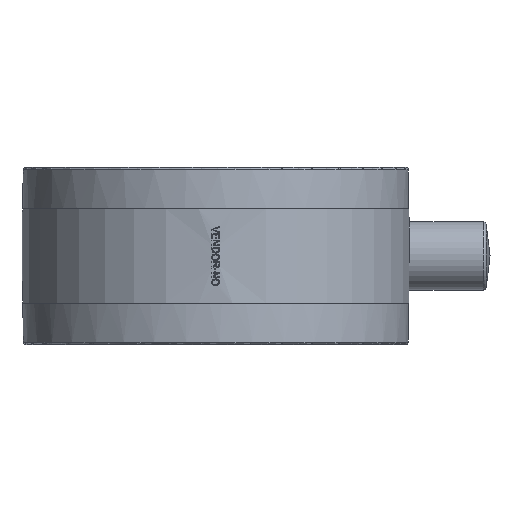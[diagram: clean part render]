
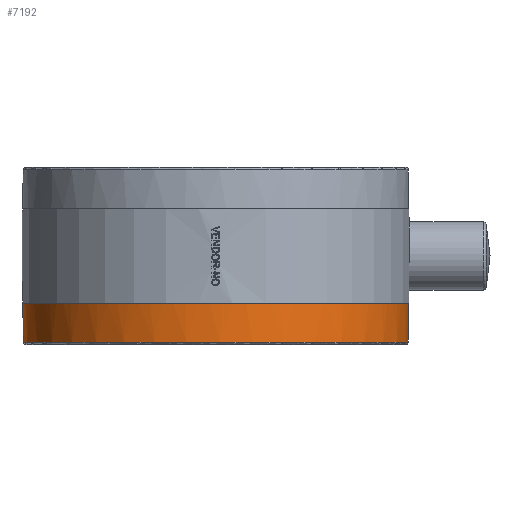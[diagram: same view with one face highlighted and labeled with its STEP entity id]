
A CAD part, front view. The second image highlights one B-rep face of the part: STEP entity #7192.
In plain terms, the highlighted cylindrical face has radius 65 mm (diameter 130 mm), a full revolution.
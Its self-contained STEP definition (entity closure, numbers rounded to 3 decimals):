
#4611=ELLIPSE('',#18800,91.924,65.);
#4612=ELLIPSE('',#18802,91.924,65.);
#4665=LINE('',#25378,#5645);
#4666=LINE('',#25383,#5646);
#5645=VECTOR('',#20491,1.);
#5646=VECTOR('',#20494,1.);
#7192=ADVANCED_FACE('',(#8440,#8441),#8134,.T.);
#8134=CYLINDRICAL_SURFACE('',#18803,65.);
#8440=FACE_BOUND('',#8831,.T.);
#8441=FACE_BOUND('',#8832,.T.);
#8831=EDGE_LOOP('',(#10068));
#8832=EDGE_LOOP('',(#10069,#10070,#10071,#10072,#10073,#10074));
#10068=ORIENTED_EDGE('',*,*,#15964,.T.);
#10069=ORIENTED_EDGE('',*,*,#15965,.F.);
#10070=ORIENTED_EDGE('',*,*,#15966,.T.);
#10071=ORIENTED_EDGE('',*,*,#15967,.F.);
#10072=ORIENTED_EDGE('',*,*,#15968,.T.);
#10073=ORIENTED_EDGE('',*,*,#15969,.F.);
#10074=ORIENTED_EDGE('',*,*,#15970,.T.);
#14484=VERTEX_POINT('',#25377);
#14485=VERTEX_POINT('',#25379);
#14486=VERTEX_POINT('',#25380);
#14487=VERTEX_POINT('',#25382);
#14488=VERTEX_POINT('',#25384);
#14489=VERTEX_POINT('',#25386);
#14490=VERTEX_POINT('',#25388);
#15964=EDGE_CURVE('',#14484,#14484,#18104,.T.);
#15965=EDGE_CURVE('',#14485,#14486,#4665,.T.);
#15966=EDGE_CURVE('',#14485,#14487,#18105,.T.);
#15967=EDGE_CURVE('',#14488,#14487,#4666,.T.);
#15968=EDGE_CURVE('',#14488,#14489,#4611,.T.);
#15969=EDGE_CURVE('',#14490,#14489,#18106,.T.);
#15970=EDGE_CURVE('',#14490,#14486,#4612,.T.);
#18104=CIRCLE('',#18798,65.);
#18105=CIRCLE('',#18799,65.);
#18106=CIRCLE('',#18801,65.);
#18798=AXIS2_PLACEMENT_3D('',#25376,#20489,#20490);
#18799=AXIS2_PLACEMENT_3D('',#25381,#20492,#20493);
#18800=AXIS2_PLACEMENT_3D('',#25385,#20495,#20496);
#18801=AXIS2_PLACEMENT_3D('',#25387,#20497,#20498);
#18802=AXIS2_PLACEMENT_3D('',#25389,#20499,#20500);
#18803=AXIS2_PLACEMENT_3D('',#25390,#20501,#20502);
#20489=DIRECTION('',(0.,0.,1.));
#20490=DIRECTION('',(1.,0.,0.));
#20491=DIRECTION('',(0.,0.,1.));
#20492=DIRECTION('',(0.,0.,-1.));
#20493=DIRECTION('',(1.,0.,0.));
#20494=DIRECTION('',(0.,0.,-1.));
#20495=DIRECTION('',(0.,0.707,-0.707));
#20496=DIRECTION('',(0.,-0.707,-0.707));
#20497=DIRECTION('',(0.,0.,1.));
#20498=DIRECTION('',(1.,0.,0.));
#20499=DIRECTION('',(0.,0.707,-0.707));
#20500=DIRECTION('',(0.,-0.707,-0.707));
#20501=DIRECTION('',(0.,0.,-1.));
#20502=DIRECTION('',(-1.,0.,0.));
#25376=CARTESIAN_POINT('',(0.,-155.5,-29.));
#25377=CARTESIAN_POINT('',(65.,-155.5,-29.));
#25378=CARTESIAN_POINT('',(-25.,-95.5,30.));
#25379=CARTESIAN_POINT('',(-25.,-95.5,-16.55));
#25380=CARTESIAN_POINT('',(-25.,-95.5,-15.85));
#25381=CARTESIAN_POINT('',(0.,-155.5,-16.55));
#25382=CARTESIAN_POINT('',(25.,-95.5,-16.55));
#25383=CARTESIAN_POINT('',(25.,-95.5,30.));
#25384=CARTESIAN_POINT('',(25.,-95.5,-15.85));
#25385=CARTESIAN_POINT('',(0.,-155.5,-75.85));
#25386=CARTESIAN_POINT('',(25.592,-95.75,-16.1));
#25387=CARTESIAN_POINT('',(0.,-155.5,-16.1));
#25388=CARTESIAN_POINT('',(-25.592,-95.75,-16.1));
#25389=CARTESIAN_POINT('',(0.,-155.5,-75.85));
#25390=CARTESIAN_POINT('',(0.,-155.5,30.));
